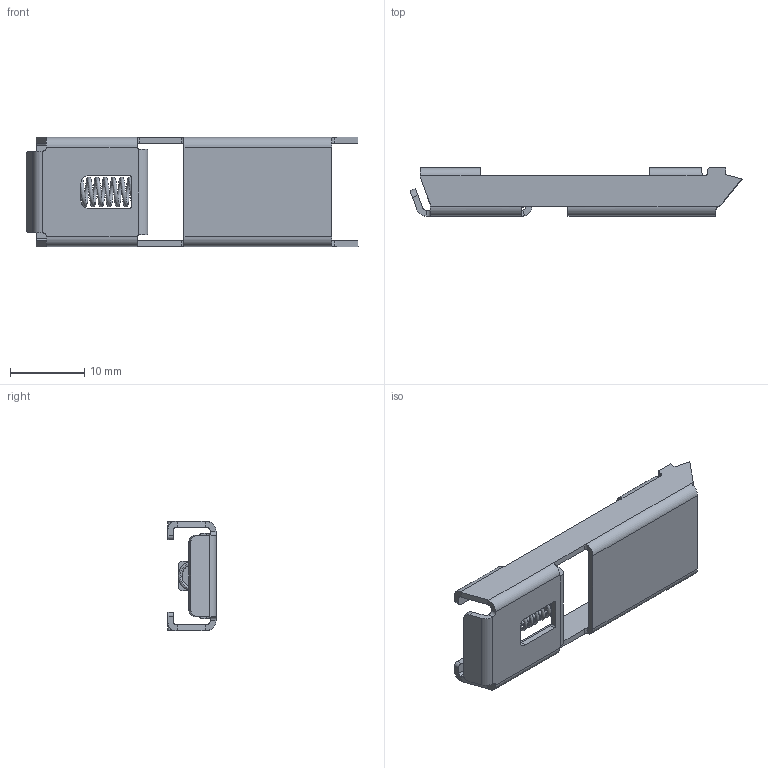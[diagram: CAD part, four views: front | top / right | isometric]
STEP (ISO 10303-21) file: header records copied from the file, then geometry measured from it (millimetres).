
FILE_DESCRIPTION(('Creo Elements/Direct Modeling STEP Export'),'2;1');
FILE_NAME('C:/temp/JobSpoolerServerData/JobServer Files/127060f3-257f-4aa4-afc3-0e4f19079817/work/output/model.stp','2019-07-30T18:53:21',(''),(''),'Creo Elements/Direct Modeling STEP processor for AP214 (Solid Model)','Creo Elements/Direct Modeling 20.1A 29-Sep-2018 (C) Parametric Technology GmbH','');
FILE_SCHEMA(('AUTOMOTIVE_DESIGN { 1 0 10303 214 1 1 1 1 }'));
Length unit declared in the file: millimetre
Products named in the file (3): VAL-M_FEDER_0.5MM_vorgespannt__TECDOC_00757586-01; Fussriegel_14.7_L44.7_H.Select__01098984; ICS-FOOT_CATCH-H122_TECDOC__01234452
Assembly tree (2 placements, depth 2):
  ICS-FOOT_CATCH-H122_TECDOC__01234452
    Fussriegel_14.7_L44.7_H.Select__01098984
    VAL-M_FEDER_0.5MM_vorgespannt__TECDOC_00757586-01
Bounding box: 44.76 x 6.5 x 14.7 mm (x, y, z)
Volume: 786.3 mm3; surface area: 2268 mm2
Topology: 2 solids, 2 shells, 142 faces, 398 edges, 258 vertices
Faces by surface type: plane 70, cylinder 50, bspline 22
Entity records: 9808 total; most frequent: CARTESIAN_POINT 5565, ORIENTED_EDGE 796, DIRECTION 682, EDGE_CURVE 398, VERTEX_POINT 258, VECTOR 234, LINE 234, AXIS2_PLACEMENT_3D 224
